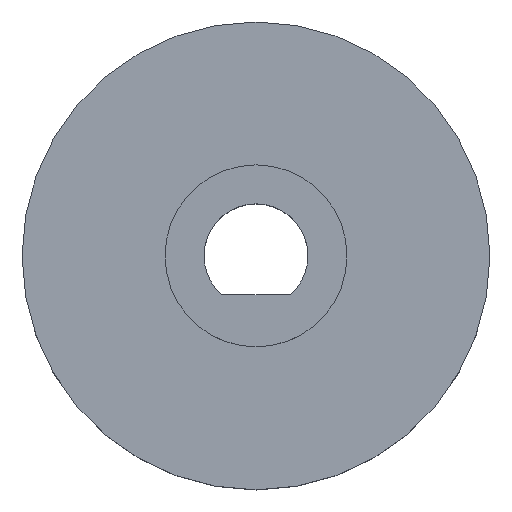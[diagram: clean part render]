
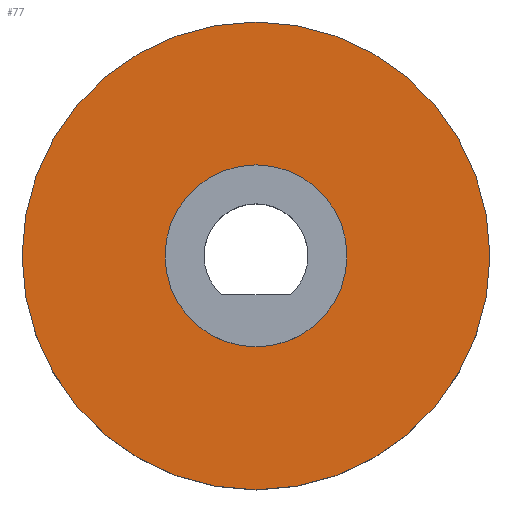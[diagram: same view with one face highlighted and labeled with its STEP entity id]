
A CAD part, top view. The second image highlights one B-rep face of the part: STEP entity #77.
In plain terms, the highlighted planar face has unit normal (0, 0, 1).
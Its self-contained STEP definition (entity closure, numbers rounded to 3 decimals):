
#52=PLANE('',#542);
#60=FACE_BOUND('',#153,.T.);
#61=FACE_BOUND('',#154,.T.);
#77=ADVANCED_FACE('NONE',(#60,#61),#52,.T.);
#153=EDGE_LOOP('',(#237,#238));
#154=EDGE_LOOP('',(#239,#240));
#194=CIRCLE('',#536,7.);
#196=CIRCLE('',#539,18.);
#197=CIRCLE('',#540,18.);
#198=CIRCLE('',#541,7.);
#237=ORIENTED_EDGE('',*,*,#417,.T.);
#238=ORIENTED_EDGE('',*,*,#418,.T.);
#239=ORIENTED_EDGE('',*,*,#419,.F.);
#240=ORIENTED_EDGE('',*,*,#414,.F.);
#369=VERTEX_POINT('',#783);
#371=VERTEX_POINT('',#786);
#373=VERTEX_POINT('',#792);
#374=VERTEX_POINT('',#793);
#414=EDGE_CURVE('NONE',#369,#371,#194,.T.);
#417=EDGE_CURVE('NONE',#373,#374,#196,.T.);
#418=EDGE_CURVE('NONE',#374,#373,#197,.T.);
#419=EDGE_CURVE('NONE',#371,#369,#198,.T.);
#536=AXIS2_PLACEMENT_3D('',#785,#611,#612);
#539=AXIS2_PLACEMENT_3D('',#791,#618,#619);
#540=AXIS2_PLACEMENT_3D('',#794,#620,#621);
#541=AXIS2_PLACEMENT_3D('',#795,#622,#623);
#542=AXIS2_PLACEMENT_3D('',#796,#624,#625);
#611=DIRECTION('',(0.,0.,1.));
#612=DIRECTION('',(0.,-1.,0.));
#618=DIRECTION('',(0.,0.,1.));
#619=DIRECTION('',(0.,-1.,0.));
#620=DIRECTION('',(0.,0.,1.));
#621=DIRECTION('',(0.,-1.,0.));
#622=DIRECTION('',(0.,0.,1.));
#623=DIRECTION('',(0.,-1.,0.));
#624=DIRECTION('',(0.,0.,1.));
#625=DIRECTION('',(0.,-1.,0.));
#783=CARTESIAN_POINT('',(0.,12.,3.));
#785=CARTESIAN_POINT('',(0.,5.,3.));
#786=CARTESIAN_POINT('',(0.,-2.,3.));
#791=CARTESIAN_POINT('',(0.,5.,3.));
#792=CARTESIAN_POINT('',(0.,-13.,3.));
#793=CARTESIAN_POINT('',(0.,23.,3.));
#794=CARTESIAN_POINT('',(0.,5.,3.));
#795=CARTESIAN_POINT('',(0.,5.,3.));
#796=CARTESIAN_POINT('',(0.,5.,3.));
